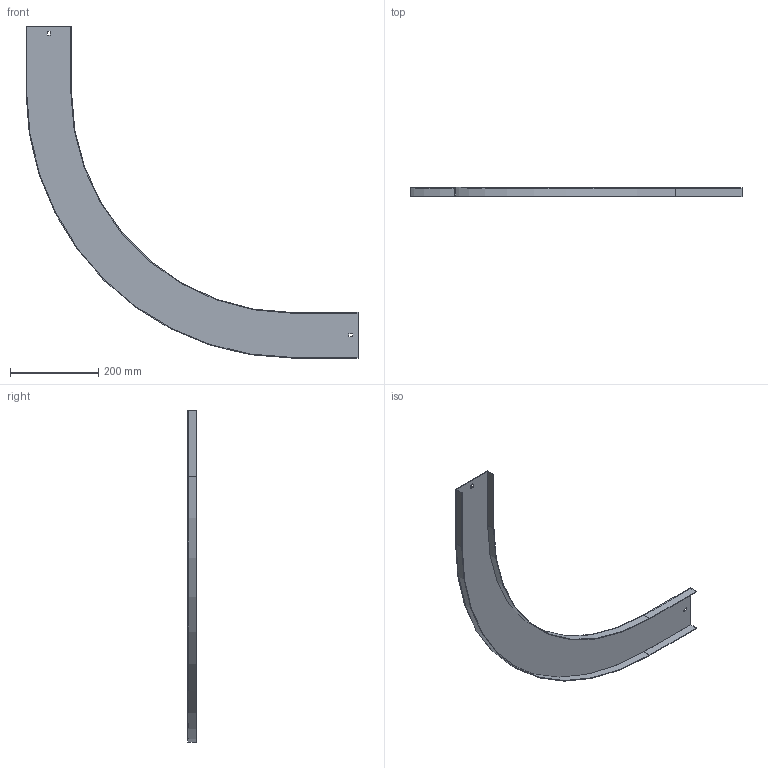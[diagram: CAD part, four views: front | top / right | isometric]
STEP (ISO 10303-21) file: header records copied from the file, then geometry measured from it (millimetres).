
FILE_DESCRIPTION (( 'STEP AP214' ), '1' );
FILE_NAME ('10N5R100.step', '2025-02-21T10:53:08', ( '' ), ( '' ), 'SwSTEP 2.0', 'SolidWorks 2023', '' );
FILE_SCHEMA (( 'AUTOMOTIVE_DESIGN' ));
Length unit declared in the file: millimetre
Products named in the file (1): 10N5R100
Bounding box: 751.5 x 20 x 751.5 mm (x, y, z)
Volume: 244251.5 mm3; surface area: 329673.4 mm2
Topology: 1 solids, 1 shells, 26 faces, 72 edges, 48 vertices
Faces by surface type: plane 22, cylinder 4
Entity records: 855 total; most frequent: CARTESIAN_POINT 147, ORIENTED_EDGE 144, DIRECTION 134, EDGE_CURVE 72, VECTOR 64, LINE 64, VERTEX_POINT 48, AXIS2_PLACEMENT_3D 35
